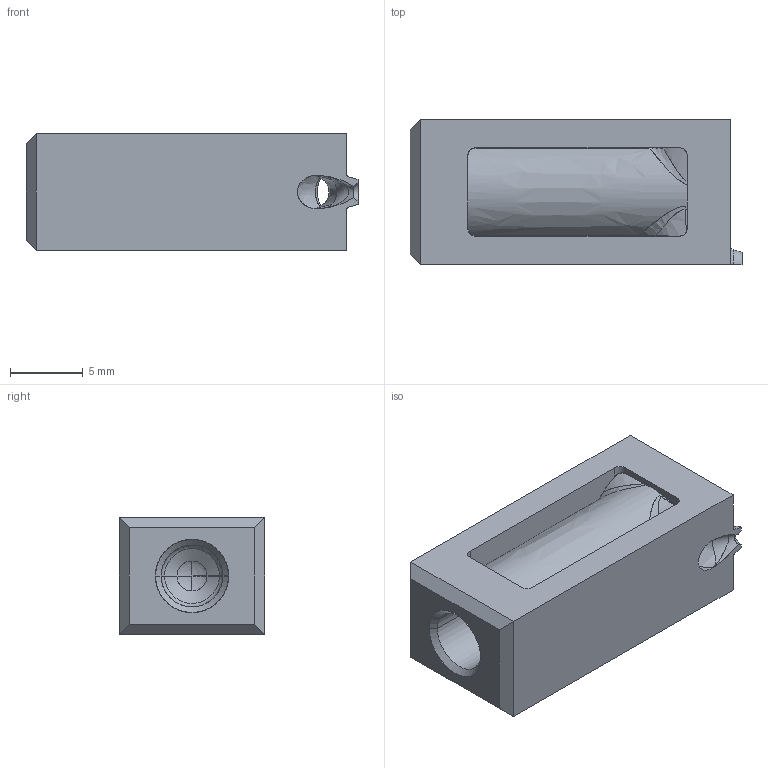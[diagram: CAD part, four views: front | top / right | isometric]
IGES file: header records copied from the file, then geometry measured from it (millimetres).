
Start section: START RECORD GO HERE.
Global section: file name: tgs10-08-s2.igs; native system: DASSAULT SYSTEMES CATIA V5 R20 - www.3ds.com; preprocessor: CATIA Version 5 Release 20 ; author: Utente; organization: NB04-ASUS; date: 20200418.090110; units: millimetre
Bounding box: 22.8 x 10 x 8 mm (x, y, z)
Surface area: 1564.4 mm2 (no closed solid volume)
Topology: 0 solids, 0 shells, 77 faces, 471 edges, 464 vertices
Faces by surface type: revolution 36, plane 21, bspline 20
